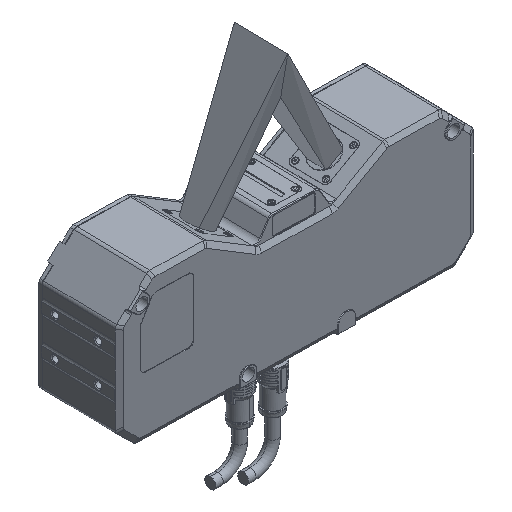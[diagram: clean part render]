
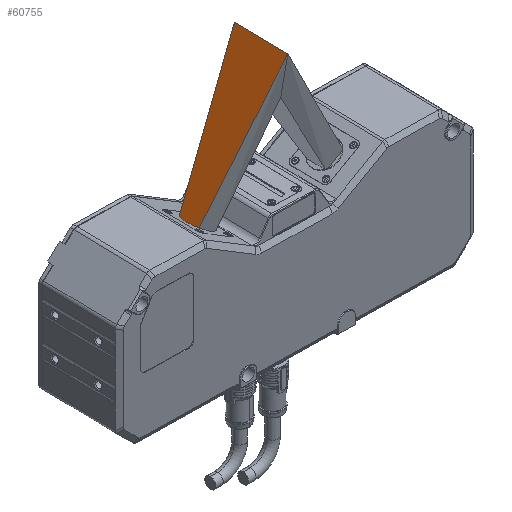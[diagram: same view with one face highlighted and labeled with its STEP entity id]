
A CAD part, isometric view. The second image highlights one B-rep face of the part: STEP entity #60755.
In plain terms, the highlighted planar face has unit normal (0.871, -0.016, -0.491).
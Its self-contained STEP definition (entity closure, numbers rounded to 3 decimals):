
#60606=DIRECTION('',(-0.49,-0.109,-0.865));
#60607=VECTOR('',#60606,99.349);
#60608=CARTESIAN_POINT('',(121.658,15.205,
-0.01));
#60609=LINE('',#60608,#60607);
#60610=DIRECTION('',(-0.019,-1.,0.));
#60611=VECTOR('',#60610,13.571);
#60612=CARTESIAN_POINT('',(72.958,4.403,
-85.928));
#60613=LINE('',#60612,#60611);
#60614=DIRECTION('',(0.486,-0.127,0.865));
#60615=VECTOR('',#60614,99.349);
#60616=CARTESIAN_POINT('',(72.703,-9.166,
-85.928));
#60617=LINE('',#60616,#60615);
#60642=DIRECTION('',(-0.019,-1.,0.));
#60643=VECTOR('',#60642,37.);
#60644=CARTESIAN_POINT('',(121.658,15.205,
-0.01));
#60645=LINE('',#60644,#60643);
#60670=CARTESIAN_POINT('',(72.703,-9.166,
-85.928));
#60671=VERTEX_POINT('',#60670);
#60672=CARTESIAN_POINT('',(72.958,4.403,
-85.928));
#60673=VERTEX_POINT('',#60672);
#60686=CARTESIAN_POINT('',(120.963,-21.788,
-0.01));
#60687=VERTEX_POINT('',#60686);
#60688=CARTESIAN_POINT('',(121.658,15.205,
-0.01));
#60689=VERTEX_POINT('',#60688);
#60741=CARTESIAN_POINT('',(97.071,-2.837,
-42.969));
#60742=DIRECTION('',(0.871,-0.016,-0.491));
#60743=DIRECTION('',(-0.019,-1.,0.));
#60744=AXIS2_PLACEMENT_3D('',#60741,#60742,#60743);
#60745=PLANE('',#60744);
#60747=ORIENTED_EDGE('',*,*,#60746,.T.);
#60749=ORIENTED_EDGE('',*,*,#60748,.T.);
#60750=ORIENTED_EDGE('',*,*,#60731,.T.);
#60752=ORIENTED_EDGE('',*,*,#60751,.F.);
#60753=EDGE_LOOP('',(#60747,#60749,#60750,#60752));
#60754=FACE_OUTER_BOUND('',#60753,.F.);
#60731=EDGE_CURVE('',#60671,#60687,#60617,.T.);
#60746=EDGE_CURVE('',#60689,#60673,#60609,.T.);
#60748=EDGE_CURVE('',#60673,#60671,#60613,.T.);
#60751=EDGE_CURVE('',#60689,#60687,#60645,.T.);
#60755=ADVANCED_FACE('',(#60754),#60745,.T.);
